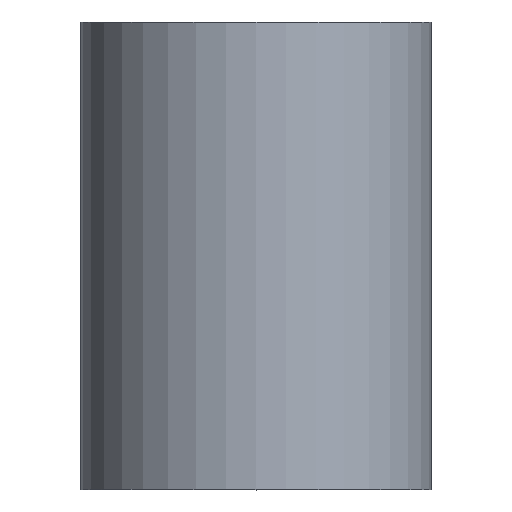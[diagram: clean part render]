
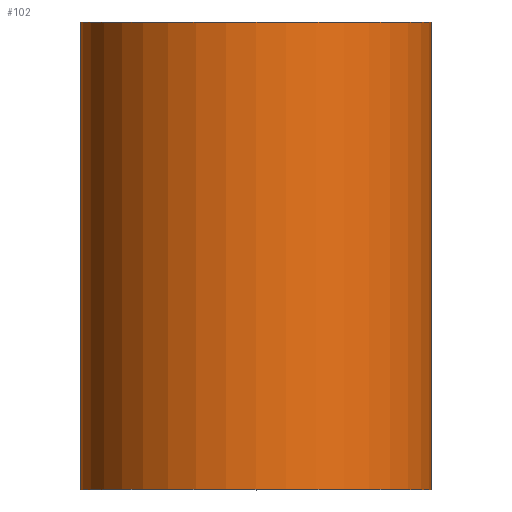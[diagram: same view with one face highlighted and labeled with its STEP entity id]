
A CAD part, top view. The second image highlights one B-rep face of the part: STEP entity #102.
In plain terms, the highlighted cylindrical face has radius 3 mm (diameter 6 mm), a partial arc.
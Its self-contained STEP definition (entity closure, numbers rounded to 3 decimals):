
#6 = VECTOR ( 'NONE', #299, 1000. ) ;
#17 = DIRECTION ( 'NONE',  ( 0., 1., 0. ) ) ;
#18 = DIRECTION ( 'NONE',  ( 0., 1., 0. ) ) ;
#30 = CIRCLE ( 'NONE', #39, 3. ) ;
#37 = VERTEX_POINT ( 'NONE', #159 ) ;
#38 = ORIENTED_EDGE ( 'NONE', *, *, #118, .F. ) ;
#39 = AXIS2_PLACEMENT_3D ( 'NONE', #247, #137, #106 ) ;
#41 = EDGE_CURVE ( 'NONE', #132, #129, #30, .T. ) ;
#50 = DIRECTION ( 'NONE',  ( 0., 1., 0. ) ) ;
#52 = DIRECTION ( 'NONE',  ( -1., 0., 0. ) ) ;
#63 = VECTOR ( 'NONE', #17, 1000. ) ;
#67 = ORIENTED_EDGE ( 'NONE', *, *, #250, .T. ) ;
#79 = CARTESIAN_POINT ( 'NONE',  ( 0., 0., 0. ) ) ;
#83 = LINE ( 'NONE', #259, #6 ) ;
#98 = DIRECTION ( 'NONE',  ( -1., 0., 0. ) ) ;
#102 = ADVANCED_FACE ( 'NONE', ( #270 ), #210, .T. ) ;
#106 = DIRECTION ( 'NONE',  ( -1., 0., 0. ) ) ;
#118 = EDGE_CURVE ( 'NONE', #278, #132, #214, .T. ) ;
#119 = CARTESIAN_POINT ( 'NONE',  ( -3., 8., 0. ) ) ;
#129 = VERTEX_POINT ( 'NONE', #296 ) ;
#132 = VERTEX_POINT ( 'NONE', #119 ) ;
#137 = DIRECTION ( 'NONE',  ( 0., 1., 0. ) ) ;
#152 = CARTESIAN_POINT ( 'NONE',  ( -3., 0., 0. ) ) ;
#159 = CARTESIAN_POINT ( 'NONE',  ( 3., 0., 0. ) ) ;
#161 = EDGE_CURVE ( 'NONE', #37, #129, #83, .T. ) ;
#165 = AXIS2_PLACEMENT_3D ( 'NONE', #79, #50, #52 ) ;
#186 = EDGE_LOOP ( 'NONE', ( #67, #257, #287, #38 ) ) ;
#203 = CIRCLE ( 'NONE', #165, 3. ) ;
#210 = CYLINDRICAL_SURFACE ( 'NONE', #265, 3. ) ;
#214 = LINE ( 'NONE', #152, #63 ) ;
#224 = CARTESIAN_POINT ( 'NONE',  ( -3., 0., 0. ) ) ;
#239 = CARTESIAN_POINT ( 'NONE',  ( 0., 0., 0. ) ) ;
#247 = CARTESIAN_POINT ( 'NONE',  ( 0., 8., 0. ) ) ;
#250 = EDGE_CURVE ( 'NONE', #278, #37, #203, .T. ) ;
#257 = ORIENTED_EDGE ( 'NONE', *, *, #161, .T. ) ;
#259 = CARTESIAN_POINT ( 'NONE',  ( 3., 0., 0. ) ) ;
#265 = AXIS2_PLACEMENT_3D ( 'NONE', #239, #18, #98 ) ;
#270 = FACE_OUTER_BOUND ( 'NONE', #186, .T. ) ;
#278 = VERTEX_POINT ( 'NONE', #224 ) ;
#287 = ORIENTED_EDGE ( 'NONE', *, *, #41, .F. ) ;
#296 = CARTESIAN_POINT ( 'NONE',  ( 3., 8., 0. ) ) ;
#299 = DIRECTION ( 'NONE',  ( 0., 1., 0. ) ) ;
